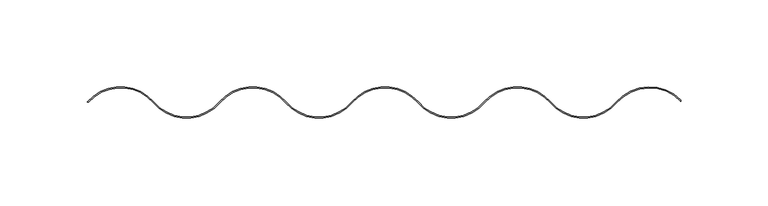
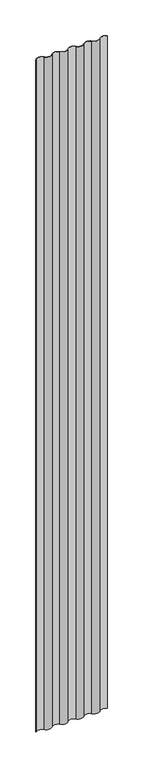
"""IFC4 building model written with IfcOpenShell, lengths in millimetres: plate geometry, HIANSA- H20.F08.001-CHAPA PERFILADA CUBIERTA - MO18 - Panel de Muro Cortina : -."""

from ifc_helpers import new_model, si_unit, point, frame_2d, origin, origin_with_axes, place, context, project, spatial, polyline, circle_curve, trimmed, segment, composite_curve, outline, extrude, source, transform, mapped, element, save


def plate_82deaa4b(model_context):
    return source(origin(), model_context, "Body", "SweptSolid", [
        extrude(outline(composite_curve([segment(trimmed(circle_curve(frame_2d((74.0000002, -7.4030474)), 25.4), [point((54.7700002, 9.1911413))], [point((93.2300002, 9.1911413))], False, "CARTESIAN"), True, "CONTINUOUS"), segment(trimmed(circle_curve(frame_2d((112.0000002, 25.4)), 24.8), [point((93.2300002, 9.1911413))], [point((130.7700002, 9.1911413))], True, "CARTESIAN"), True, "CONTINUOUS"), segment(trimmed(circle_curve(frame_2d((150.0000002, -7.4030474)), 25.4), [point((130.7700002, 9.1911413))], [point((167.9999998, 10.5178904))], False, "CARTESIAN"), True, "CONTINUOUS"), segment(polyline([(167.9999998, 10.5178904), (167.9999998, 9.6568474)]), True, "CONTINUOUS"), segment(trimmed(circle_curve(frame_2d((150.0000002, -7.4030474)), 24.8), [point((167.9999998, 9.6568474))], [point((131.2300002, 8.8058113))], True, "CARTESIAN"), True, "CONTINUOUS"), segment(trimmed(circle_curve(frame_2d((112.0000002, 25.4)), 25.4), [point((131.2300002, 8.8058113))], [point((92.7700002, 8.8058113))], False, "CARTESIAN"), True, "CONTINUOUS"), segment(trimmed(circle_curve(frame_2d((74.0000002, -7.4030474)), 24.8), [point((92.7700002, 8.8058113))], [point((55.2300002, 8.8058113))], True, "CARTESIAN"), True, "CONTINUOUS"), segment(trimmed(circle_curve(frame_2d((36.0000002, 25.4)), 25.4), [point((55.2300002, 8.8058113))], [point((16.7700002, 8.8058113))], False, "CARTESIAN"), True, "CONTINUOUS"), segment(trimmed(circle_curve(frame_2d((-1.9999998, -7.4030474)), 24.8), [point((16.7700002, 8.8058113))], [point((-20.7699998, 8.8058113))], True, "CARTESIAN"), True, "CONTINUOUS"), segment(trimmed(circle_curve(frame_2d((-39.9999998, 25.4)), 25.4), [point((-20.7699998, 8.8058113))], [point((-59.2299998, 8.8058113))], False, "CARTESIAN"), True, "CONTINUOUS"), segment(trimmed(circle_curve(frame_2d((-77.9999998, -7.4030474)), 24.8), [point((-59.2299998, 8.8058113))], [point((-96.7699998, 8.8058113))], True, "CARTESIAN"), True, "CONTINUOUS"), segment(trimmed(circle_curve(frame_2d((-115.9999998, 25.4)), 25.4), [point((-96.7699998, 8.8058113))], [point((-135.2299998, 8.8058113))], False, "CARTESIAN"), True, "CONTINUOUS"), segment(trimmed(circle_curve(frame_2d((-153.9999998, -7.4030474)), 24.8), [point((-135.2299998, 8.8058113))], [point((-172.2938127, 9.3413968))], True, "CARTESIAN"), True, "CONTINUOUS"), segment(polyline([(-172.2938127, 9.3413968), (-173.2299998, 9.1911413)]), True, "CONTINUOUS"), segment(trimmed(circle_curve(frame_2d((-153.9999998, -7.4030474)), 25.4), [point((-173.2299998, 9.1911413))], [point((-134.7699998, 9.1911413))], False, "CARTESIAN"), True, "CONTINUOUS"), segment(trimmed(circle_curve(frame_2d((-115.9999998, 25.4)), 24.8), [point((-134.7699998, 9.1911413))], [point((-97.2299998, 9.1911413))], True, "CARTESIAN"), True, "CONTINUOUS"), segment(trimmed(circle_curve(frame_2d((-77.9999998, -7.4030474)), 25.4), [point((-97.2299998, 9.1911413))], [point((-58.7699998, 9.1911413))], False, "CARTESIAN"), True, "CONTINUOUS"), segment(trimmed(circle_curve(frame_2d((-39.9999998, 25.4)), 24.8), [point((-58.7699998, 9.1911413))], [point((-21.2299998, 9.1911413))], True, "CARTESIAN"), True, "CONTINUOUS"), segment(trimmed(circle_curve(frame_2d((-1.9999998, -7.4030474)), 25.4), [point((-21.2299998, 9.1911413))], [point((17.2300002, 9.1911413))], False, "CARTESIAN"), True, "CONTINUOUS"), segment(trimmed(circle_curve(frame_2d((36.0000002, 25.4)), 24.8), [point((17.2300002, 9.1911413))], [point((54.7700002, 9.1911413))], True, "CARTESIAN"), True, "CONTINUOUS")], self_intersect=False)), origin_with_axes(), (0.0, 0.0, 1.0), 3390.8509027),
    ])


if __name__ == "__main__":
    model = new_model("IFC4")
    model_context = context("Model", 3, world=origin())
    ifc_project = project(units=[si_unit("LENGTHUNIT", "METRE", prefix="MILLI")], contexts=[model_context])
    site = spatial("IfcSite", under=ifc_project)
    building = spatial("IfcBuilding", under=site)
    placement = place(None, origin())
    plate_shape = plate_82deaa4b(model_context)
    element("IfcPlate", 1, ObjectType="HIANSA- H20.F08.001-CHAPA PERFILADA CUBIERTA - MO18 - Panel de Muro Cortina : -", at=placement, inside=building, context=model_context, shape_type="MappedRepresentation", body=[
        mapped(plate_shape, transform((0.0, 0.0, 0.0), x_axis=(1.0, 0.0, 0.0), y_axis=(0.0, 1.0, 0.0), z_axis=(0.0, 0.0, 1.0))),
    ])
    save(model, "model.ifc")
